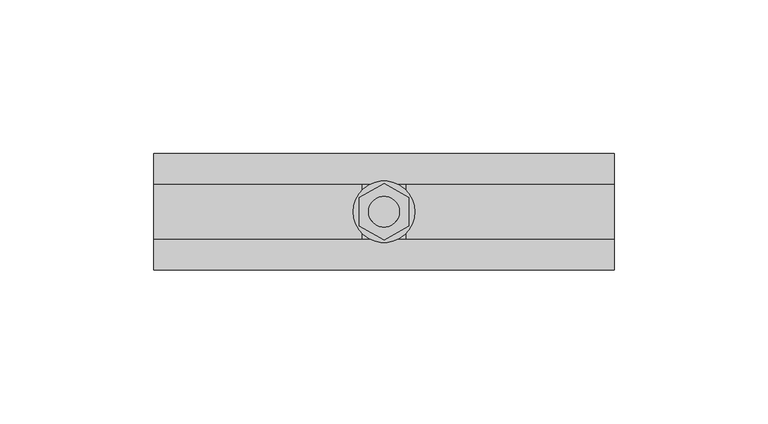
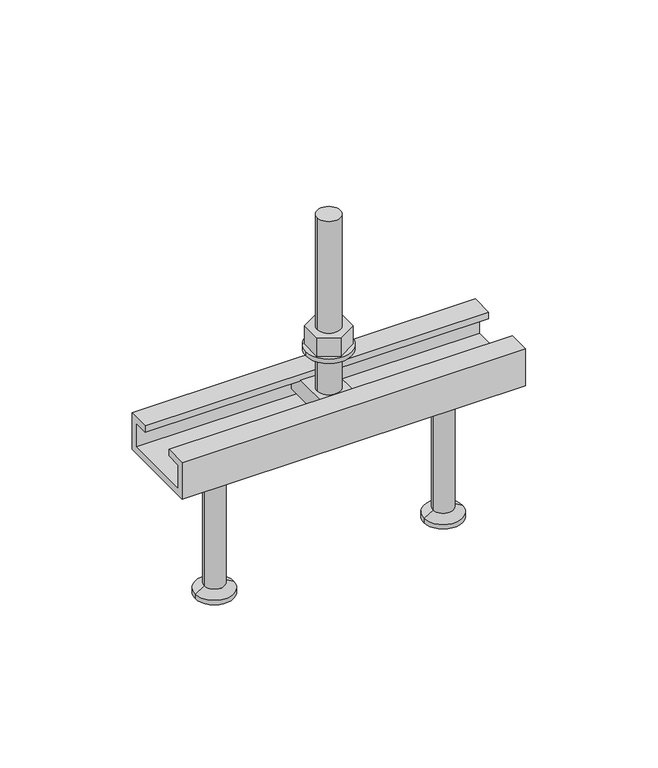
"""IFC4 building model written with IfcOpenShell, lengths in millimetres: fastener geometry, JTA-K JORDAHL® AnchorChannels : JTA-K L=150 mm."""

from ifc_helpers import new_model, si_unit, point, frame, frame_2d, origin, place, context, project, spatial, polyline, circle_curve, trimmed, segment, composite_curve, outline, extrude, source, transform, mapped, element, save
from ifc_brep_helpers import plane_surface, cylinder_surface, revolved_surface, advanced_brep


def fastener_16b33fe7(model_context):
    return source(origin(), model_context, "Body", "SolidModel", [
        extrude(outline(polyline([(75.0, 9.2376043), (83.0, 4.6188022), (83.0, -4.6188022), (75.0, -9.2376043), (67.0, -4.6188022), (67.0, 4.6188022), (75.0, 9.2376043)]), holes=[composite_curve([segment(trimmed(circle_curve(frame_2d((75.0, 0.0)), 5.0), [point((70.0, 0.0))], [point((80.0, 0.0))], True, "CARTESIAN"), True, "CONTINUOUS"), segment(trimmed(circle_curve(frame_2d((75.0, 0.0)), 5.0), [point((80.0, 0.0))], [point((70.0, 0.0))], True, "CARTESIAN"), True, "CONTINUOUS")], self_intersect=False)]), frame((0.0, 0.0, 17.0), z_axis=(0.0, 0.0, 1.0), x_axis=(1.0, 0.0, 0.0)), (0.0, 0.0, 1.0), 8.4),
        extrude(outline(composite_curve([segment(trimmed(circle_curve(frame_2d((75.0, 0.0)), 10.0), [point((65.0, 0.0))], [point((85.0, 0.0))], False, "CARTESIAN"), True, "CONTINUOUS"), segment(trimmed(circle_curve(frame_2d((75.0, 0.0)), 10.0), [point((85.0, 0.0))], [point((65.0, 0.0))], False, "CARTESIAN"), True, "CONTINUOUS")], self_intersect=False), holes=[composite_curve([segment(trimmed(circle_curve(frame_2d((75.0, 0.0)), 5.25), [point((69.75, 0.0))], [point((80.25, 0.0))], True, "CARTESIAN"), True, "CONTINUOUS"), segment(trimmed(circle_curve(frame_2d((75.0, 0.0)), 5.25), [point((80.25, 0.0))], [point((69.75, 0.0))], True, "CARTESIAN"), True, "CONTINUOUS")], self_intersect=False)]), frame((0.0, 0.0, 15.0), z_axis=(0.0, 0.0, 1.0), x_axis=(1.0, 0.0, 0.0)), (0.0, 0.0, 1.0), 2.0),
        advanced_brep(
        [(82.0, 16.0, -3.0), (82.0, -16.0, -3.0), (82.0, -16.0, -11.0), (82.0, 16.0, -11.0), (68.0, 16.0, -3.0), (68.0, 16.0, -11.0), (68.0, -16.0, -11.0), (68.0, -16.0, -3.0), (80.0, 0.0, -3.0), (70.0, 0.0, -3.0), (70.0, 0.0, 77.0), (80.0, 0.0, 77.0)],
        [
            (0, 1),
            (1, 2),
            (2, 3),
            (3, 0),
            (4, 5),
            (5, 6),
            (6, 7),
            (7, 4),
            (0, 4),
            (7, 1),
            (8, 9, circle_curve(frame((75.0, 0.0, -3.0), z_axis=(0.0, 0.0, -1.0), x_axis=(1.0, 0.0, 0.0)), 5.0)),
            (9, 8, circle_curve(frame((75.0, 0.0, -3.0), z_axis=(0.0, 0.0, -1.0), x_axis=(1.0, 0.0, 0.0)), 5.0)),
            (6, 2),
            (5, 3),
            (10, 11, circle_curve(frame((75.0, 0.0, 77.0), z_axis=(0.0, 0.0, 1.0), x_axis=(1.0, 0.0, 0.0)), 5.0)),
            (11, 10, circle_curve(frame((75.0, 0.0, 77.0), z_axis=(0.0, 0.0, 1.0), x_axis=(1.0, 0.0, 0.0)), 5.0)),
            (10, 9),
            (8, 11),
        ],
        [
            plane_surface(frame((82.0, -16.0, -3.0), z_axis=(1.0, 0.0, 0.0), x_axis=(0.0, -1.0, 0.0))),
            plane_surface(frame((68.0, -16.0, -3.0), z_axis=(-1.0, 0.0, 0.0), x_axis=(0.0, 1.0, 0.0))),
            plane_surface(frame((82.0, 16.0, -3.0), z_axis=(0.0, 0.0, 1.0), x_axis=(-1.0, 0.0, 0.0))),
            plane_surface(frame((82.0, -16.0, -3.0), z_axis=(0.0, -1.0, 0.0), x_axis=(-1.0, 0.0, 0.0))),
            plane_surface(frame((82.0, -16.0, -11.0), z_axis=(0.0, 0.0, -1.0), x_axis=(-1.0, 0.0, 0.0))),
            plane_surface(frame((82.0, 16.0, -11.0), z_axis=(0.0, 1.0, 0.0), x_axis=(-1.0, 0.0, 0.0))),
            plane_surface(frame((80.0, 0.0, 77.0), z_axis=(0.0, 0.0, 1.0), x_axis=(0.0, 1.0, 0.0))),
            cylinder_surface(frame((75.0, 0.0, -3.0), z_axis=(0.0, 0.0, 1.0), x_axis=(1.0, 0.0, 0.0)), 5.0),
        ],
        [
            (0, [[1, 2, 3, 4]]),
            (1, [[5, 6, 7, 8]]),
            (2, [[-1, 9, -8, 10], [11, 12]]),
            (3, [[-2, -10, -7, 13]]),
            (4, [[-3, -13, -6, 14]]),
            (5, [[-4, -14, -5, -9]]),
            (6, [[15, 16]]),
            (7, [[-15, 17, -11, 18]]),
            (7, [[-16, -18, -12, -17]]),
        ],
    ),
        advanced_brep(
        [(125.0, 0.0, -17.0), (138.5, 0.0, -17.0), (111.5, 0.0, -17.0), (116.5, 0.0, -80.0), (133.5, 0.0, -80.0), (125.0, 0.0, -80.0), (116.5, 0.0, -78.0), (133.5, 0.0, -78.0), (120.5, 0.0, -75.6905989), (129.5, 0.0, -75.6905989), (120.5, 0.0, -19.5), (129.5, 0.0, -19.5)],
        [
            (0, 1),
            (1, 2, circle_curve(frame((125.0, 0.0, -17.0), z_axis=(0.0, 0.0, 1.0), x_axis=(1.0, 0.0, 0.0)), 13.5)),
            (2, 0),
            (2, 1, circle_curve(frame((125.0, 0.0, -17.0), z_axis=(0.0, 0.0, 1.0), x_axis=(1.0, 0.0, 0.0)), 13.5)),
            (3, 4, circle_curve(frame((125.0, 0.0, -80.0), z_axis=(0.0, 0.0, -1.0), x_axis=(1.0, 0.0, 0.0)), 8.5)),
            (4, 5),
            (5, 3),
            (4, 3, circle_curve(frame((125.0, 0.0, -80.0), z_axis=(0.0, 0.0, -1.0), x_axis=(1.0, 0.0, 0.0)), 8.5)),
            (6, 7, circle_curve(frame((125.0, 0.0, -78.0), z_axis=(0.0, 0.0, -1.0), x_axis=(1.0, 0.0, 0.0)), 8.5)),
            (7, 4),
            (3, 6),
            (7, 6, circle_curve(frame((125.0, 0.0, -78.0), z_axis=(0.0, 0.0, -1.0), x_axis=(1.0, 0.0, 0.0)), 8.5)),
            (8, 9, circle_curve(frame((125.0, 0.0, -75.6905989), z_axis=(0.0, 0.0, -1.0), x_axis=(1.0, 0.0, 0.0)), 4.5)),
            (9, 7),
            (6, 8),
            (9, 8, circle_curve(frame((125.0, 0.0, -75.6905989), z_axis=(0.0, 0.0, -1.0), x_axis=(1.0, 0.0, 0.0)), 4.5)),
            (10, 11, circle_curve(frame((125.0, 0.0, -19.5), z_axis=(0.0, 0.0, -1.0), x_axis=(1.0, 0.0, 0.0)), 4.5)),
            (11, 9),
            (8, 10),
            (11, 10, circle_curve(frame((125.0, 0.0, -19.5), z_axis=(0.0, 0.0, -1.0), x_axis=(1.0, 0.0, 0.0)), 4.5)),
            (1, 11),
            (10, 2),
        ],
        [
            plane_surface(frame((125.0, 0.0, -17.0), z_axis=(0.0, 0.0, 1.0), x_axis=(1.0, 0.0, 0.0))),
            plane_surface(frame((125.0, 0.0, -80.0), z_axis=(0.0, 0.0, -1.0), x_axis=(1.0, 0.0, 0.0))),
            cylinder_surface(frame((125.0, 0.0, 2277.3150031), z_axis=(0.0, 0.0, 1.0), x_axis=(1.0, 0.0, 0.0)), 8.5),
            revolved_surface(polyline([(133.5, 0.0, -78.0), (129.5, 0.0, -75.6905989)]), (125.0, 0.0, 2277.3150031), (0.0, 0.0, 1.0)),
            cylinder_surface(frame((125.0, 0.0, 2277.3150031), z_axis=(0.0, 0.0, 1.0), x_axis=(1.0, 0.0, 0.0)), 4.5),
            revolved_surface(polyline([(129.5, 0.0, -19.5), (138.5, 0.0, -17.0)]), (125.0, 0.0, 2277.3150031), (0.0, 0.0, 1.0)),
        ],
        [
            (0, [[1, 2, 3]]),
            (0, [[-3, 4, -1]]),
            (1, [[5, 6, 7]]),
            (1, [[8, -7, -6]]),
            (2, [[9, 10, -5, 11]]),
            (2, [[12, -11, -8, -10]]),
            (3, [[13, 14, -9, 15]]),
            (3, [[16, -15, -12, -14]]),
            (4, [[17, 18, -13, 19]]),
            (4, [[20, -19, -16, -18]]),
            (5, [[-2, 21, -17, 22]]),
            (5, [[-4, -22, -20, -21]]),
        ],
    ),
        advanced_brep(
        [(25.0, 0.0, -17.0), (38.5, 0.0, -17.0), (11.5, 0.0, -17.0), (16.5, 0.0, -80.0), (33.5, 0.0, -80.0), (25.0, 0.0, -80.0), (16.5, 0.0, -78.0), (33.5, 0.0, -78.0), (20.5, 0.0, -75.6905989), (29.5, 0.0, -75.6905989), (20.5, 0.0, -19.5), (29.5, 0.0, -19.5)],
        [
            (0, 1),
            (1, 2, circle_curve(frame((25.0, 0.0, -17.0), z_axis=(0.0, 0.0, 1.0), x_axis=(1.0, 0.0, 0.0)), 13.5)),
            (2, 0),
            (2, 1, circle_curve(frame((25.0, 0.0, -17.0), z_axis=(0.0, 0.0, 1.0), x_axis=(1.0, 0.0, 0.0)), 13.5)),
            (3, 4, circle_curve(frame((25.0, 0.0, -80.0), z_axis=(0.0, 0.0, -1.0), x_axis=(1.0, 0.0, 0.0)), 8.5)),
            (4, 5),
            (5, 3),
            (4, 3, circle_curve(frame((25.0, 0.0, -80.0), z_axis=(0.0, 0.0, -1.0), x_axis=(1.0, 0.0, 0.0)), 8.5)),
            (6, 7, circle_curve(frame((25.0, 0.0, -78.0), z_axis=(0.0, 0.0, -1.0), x_axis=(1.0, 0.0, 0.0)), 8.5)),
            (7, 4),
            (3, 6),
            (7, 6, circle_curve(frame((25.0, 0.0, -78.0), z_axis=(0.0, 0.0, -1.0), x_axis=(1.0, 0.0, 0.0)), 8.5)),
            (8, 9, circle_curve(frame((25.0, 0.0, -75.6905989), z_axis=(0.0, 0.0, -1.0), x_axis=(1.0, 0.0, 0.0)), 4.5)),
            (9, 7),
            (6, 8),
            (9, 8, circle_curve(frame((25.0, 0.0, -75.6905989), z_axis=(0.0, 0.0, -1.0), x_axis=(1.0, 0.0, 0.0)), 4.5)),
            (10, 11, circle_curve(frame((25.0, 0.0, -19.5), z_axis=(0.0, 0.0, -1.0), x_axis=(1.0, 0.0, 0.0)), 4.5)),
            (11, 9),
            (8, 10),
            (11, 10, circle_curve(frame((25.0, 0.0, -19.5), z_axis=(0.0, 0.0, -1.0), x_axis=(1.0, 0.0, 0.0)), 4.5)),
            (1, 11),
            (10, 2),
        ],
        [
            plane_surface(frame((25.0, 0.0, -17.0), z_axis=(0.0, 0.0, 1.0), x_axis=(1.0, 0.0, 0.0))),
            plane_surface(frame((25.0, 0.0, -80.0), z_axis=(0.0, 0.0, -1.0), x_axis=(1.0, 0.0, 0.0))),
            cylinder_surface(frame((25.0, 0.0, 2277.3150031), z_axis=(0.0, 0.0, 1.0), x_axis=(1.0, 0.0, 0.0)), 8.5),
            revolved_surface(polyline([(33.5, 0.0, -78.0), (29.5, 0.0, -75.6905989)]), (25.0, 0.0, 2277.3150031), (0.0, 0.0, 1.0)),
            cylinder_surface(frame((25.0, 0.0, 2277.3150031), z_axis=(0.0, 0.0, 1.0), x_axis=(1.0, 0.0, 0.0)), 4.5),
            revolved_surface(polyline([(29.5, 0.0, -19.5), (38.5, 0.0, -17.0)]), (25.0, 0.0, 2277.3150031), (0.0, 0.0, 1.0)),
        ],
        [
            (0, [[1, 2, 3]]),
            (0, [[-3, 4, -1]]),
            (1, [[5, 6, 7]]),
            (1, [[8, -7, -6]]),
            (2, [[9, 10, -5, 11]]),
            (2, [[12, -11, -8, -10]]),
            (3, [[13, 14, -9, 15]]),
            (3, [[16, -15, -12, -14]]),
            (4, [[17, 18, -13, 19]]),
            (4, [[20, -19, -16, -18]]),
            (5, [[-2, 21, -17, 22]]),
            (5, [[-4, -22, -20, -21]]),
        ],
    ),
        extrude(outline(polyline([(19.0, 0.0), (19.0, -17.0), (-19.0, -17.0), (-19.0, 0.0), (-9.0, 0.0), (-9.0, -3.0), (-16.0, -3.0), (-16.0, -14.0), (16.0, -14.0), (16.0, -3.0), (9.0, -3.0), (9.0, 0.0), (19.0, 0.0)])), frame((0.0, 0.0, 0.0), z_axis=(1.0, 0.0, 0.0), x_axis=(0.0, 1.0, 0.0)), (0.0, 0.0, 1.0), 150.0),
    ])


if __name__ == "__main__":
    model = new_model("IFC4")
    model_context = context("Model", 3, world=origin())
    ifc_project = project(units=[si_unit("LENGTHUNIT", "METRE", prefix="MILLI")], contexts=[model_context])
    site = spatial("IfcSite", under=ifc_project)
    building = spatial("IfcBuilding", under=site)
    placement = place(None, origin())
    fastener_shape = fastener_16b33fe7(model_context)
    element("IfcFastener", 1, ObjectType="JTA-K JORDAHL® AnchorChannels : JTA-K L=150 mm", at=placement, inside=building, context=model_context, shape_type="MappedRepresentation", body=[
        mapped(fastener_shape, transform((0.0, 0.0, 0.0), x_axis=(1.0, 0.0, 0.0), y_axis=(0.0, 1.0, 0.0), z_axis=(0.0, 0.0, 1.0))),
    ])
    save(model, "model.ifc")
